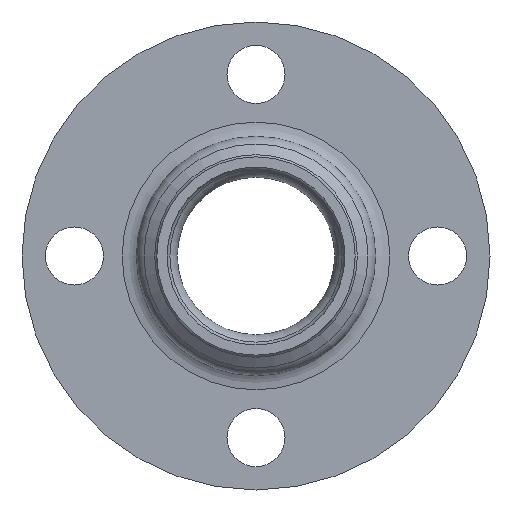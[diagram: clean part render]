
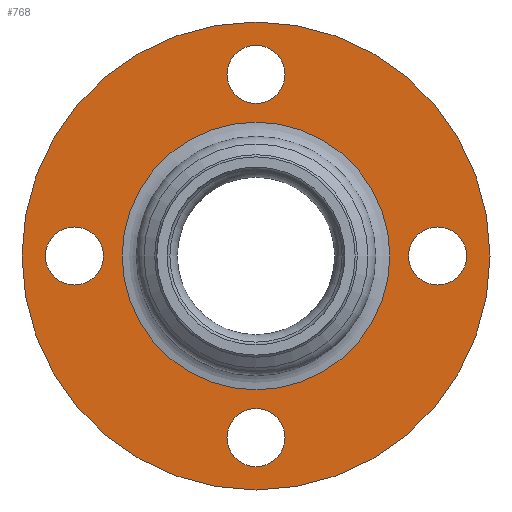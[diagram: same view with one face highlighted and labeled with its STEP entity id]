
A CAD part, left-side view. The second image highlights one B-rep face of the part: STEP entity #768.
In plain terms, the highlighted planar face has unit normal (-1, 0, 0).
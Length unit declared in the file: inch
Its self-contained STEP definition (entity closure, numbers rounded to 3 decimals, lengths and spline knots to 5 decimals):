
#49=FACE_BOUND('',#118,.T.);
#50=FACE_BOUND('',#119,.T.);
#51=FACE_BOUND('',#120,.T.);
#52=FACE_BOUND('',#121,.T.);
#53=FACE_BOUND('',#122,.T.);
#62=PLANE('',#839);
#84=FACE_OUTER_BOUND('',#117,.T.);
#117=EDGE_LOOP('',(#515,#516));
#118=EDGE_LOOP('',(#517));
#119=EDGE_LOOP('',(#518));
#120=EDGE_LOOP('',(#519));
#121=EDGE_LOOP('',(#520));
#122=EDGE_LOOP('',(#521,#522));
#192=CIRCLE('',#819,0.31);
#195=CIRCLE('',#823,0.31);
#198=CIRCLE('',#827,0.31);
#201=CIRCLE('',#831,0.31);
#204=CIRCLE('',#835,1.42961);
#205=CIRCLE('',#836,1.42961);
#208=CIRCLE('',#840,2.5);
#209=CIRCLE('',#841,2.5);
#290=VERTEX_POINT('',#1272);
#293=VERTEX_POINT('',#1280);
#296=VERTEX_POINT('',#1288);
#299=VERTEX_POINT('',#1296);
#302=VERTEX_POINT('',#1303);
#303=VERTEX_POINT('',#1305);
#305=VERTEX_POINT('',#1312);
#306=VERTEX_POINT('',#1313);
#377=EDGE_CURVE('',#290,#290,#192,.T.);
#381=EDGE_CURVE('',#293,#293,#195,.T.);
#385=EDGE_CURVE('',#296,#296,#198,.T.);
#389=EDGE_CURVE('',#299,#299,#201,.T.);
#392=EDGE_CURVE('',#302,#303,#204,.T.);
#393=EDGE_CURVE('',#303,#302,#205,.T.);
#396=EDGE_CURVE('',#305,#306,#208,.T.);
#397=EDGE_CURVE('',#306,#305,#209,.T.);
#515=ORIENTED_EDGE('',*,*,#396,.F.);
#516=ORIENTED_EDGE('',*,*,#397,.F.);
#517=ORIENTED_EDGE('',*,*,#377,.T.);
#518=ORIENTED_EDGE('',*,*,#381,.T.);
#519=ORIENTED_EDGE('',*,*,#385,.T.);
#520=ORIENTED_EDGE('',*,*,#389,.T.);
#521=ORIENTED_EDGE('',*,*,#393,.F.);
#522=ORIENTED_EDGE('',*,*,#392,.F.);
#768=ADVANCED_FACE('',(#84,#49,#50,#51,#52,#53),#62,.T.);
#819=AXIS2_PLACEMENT_3D('',#1274,#969,#970);
#823=AXIS2_PLACEMENT_3D('',#1282,#978,#979);
#827=AXIS2_PLACEMENT_3D('',#1290,#987,#988);
#831=AXIS2_PLACEMENT_3D('',#1298,#996,#997);
#835=AXIS2_PLACEMENT_3D('',#1306,#1004,#1005);
#836=AXIS2_PLACEMENT_3D('',#1307,#1006,#1007);
#839=AXIS2_PLACEMENT_3D('',#1311,#1012,#1013);
#840=AXIS2_PLACEMENT_3D('',#1314,#1014,#1015);
#841=AXIS2_PLACEMENT_3D('',#1315,#1016,#1017);
#969=DIRECTION('center_axis',(1.,0.,0.));
#970=DIRECTION('ref_axis',(0.,-1.,0.));
#978=DIRECTION('center_axis',(1.,0.,0.));
#979=DIRECTION('ref_axis',(0.,0.,1.));
#987=DIRECTION('center_axis',(1.,0.,0.));
#988=DIRECTION('ref_axis',(0.,1.,0.));
#996=DIRECTION('center_axis',(1.,0.,0.));
#997=DIRECTION('ref_axis',(0.,0.,-1.));
#1004=DIRECTION('center_axis',(-1.,0.,0.));
#1005=DIRECTION('ref_axis',(0.,-1.,0.));
#1006=DIRECTION('center_axis',(-1.,0.,0.));
#1007=DIRECTION('ref_axis',(0.,-1.,0.));
#1012=DIRECTION('center_axis',(-1.,0.,0.));
#1013=DIRECTION('ref_axis',(0.,0.,1.));
#1014=DIRECTION('center_axis',(1.,0.,0.));
#1015=DIRECTION('ref_axis',(0.,1.,0.));
#1016=DIRECTION('center_axis',(1.,0.,0.));
#1017=DIRECTION('ref_axis',(0.,1.,0.));
#1272=CARTESIAN_POINT('',(1.035,0.31,-1.94));
#1274=CARTESIAN_POINT('Origin',(1.035,0.,-1.94));
#1280=CARTESIAN_POINT('',(1.035,-1.94,-0.31));
#1282=CARTESIAN_POINT('Origin',(1.035,-1.94,0.));
#1288=CARTESIAN_POINT('',(1.035,-0.31,1.94));
#1290=CARTESIAN_POINT('Origin',(1.035,0.,1.94));
#1296=CARTESIAN_POINT('',(1.035,1.94,0.31));
#1298=CARTESIAN_POINT('Origin',(1.035,1.94,0.));
#1303=CARTESIAN_POINT('',(1.035,0.,1.42961));
#1305=CARTESIAN_POINT('',(1.035,1.42961,0.));
#1306=CARTESIAN_POINT('Origin',(1.035,0.,0.));
#1307=CARTESIAN_POINT('Origin',(1.035,0.,0.));
#1311=CARTESIAN_POINT('Origin',(1.035,1.89,0.));
#1312=CARTESIAN_POINT('',(1.035,2.5,0.));
#1313=CARTESIAN_POINT('',(1.035,-2.5,0.));
#1314=CARTESIAN_POINT('Origin',(1.035,0.,0.));
#1315=CARTESIAN_POINT('Origin',(1.035,0.,0.));
